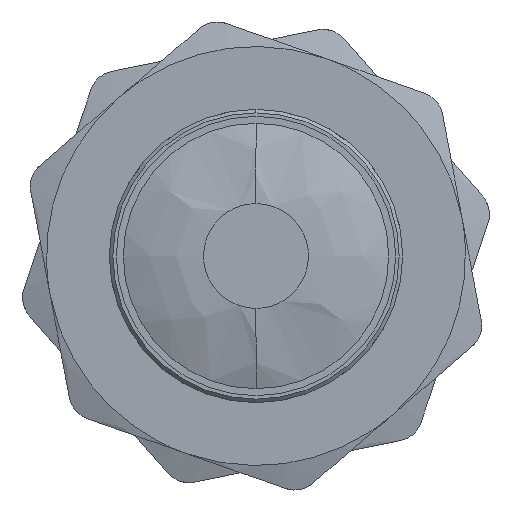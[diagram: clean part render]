
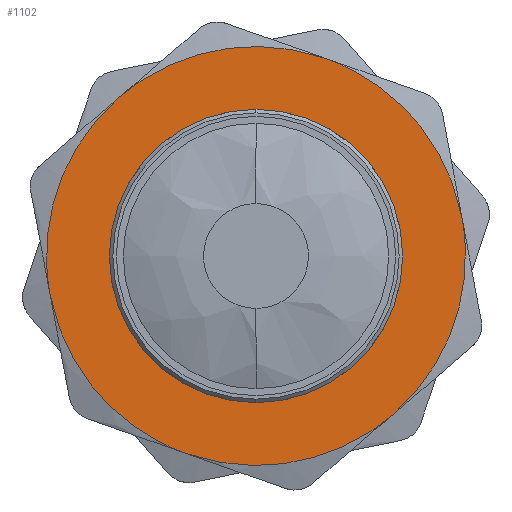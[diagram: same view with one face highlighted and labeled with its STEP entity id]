
A CAD part, left-side view. The second image highlights one B-rep face of the part: STEP entity #1102.
In plain terms, the highlighted planar face has unit normal (-1, 0, 0) as drawn and (1, 0, 0) by its records, which use the part's own axes.
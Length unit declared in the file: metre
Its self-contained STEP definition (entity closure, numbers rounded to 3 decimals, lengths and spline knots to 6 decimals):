
#63 = VERTEX_POINT ( 'NONE', #1628 ) ;
#105 = CARTESIAN_POINT ( 'NONE',  ( 0.005, 0., -0.03 ) ) ;
#111 = CARTESIAN_POINT ( 'NONE',  ( 0.005, 0.020489, 0.024513 ) ) ;
#120 = CARTESIAN_POINT ( 'NONE',  ( 0.005, 0., 0. ) ) ;
#154 = VERTEX_POINT ( 'NONE', #1417 ) ;
#286 = FACE_OUTER_BOUND ( 'NONE', #1823, .T. ) ;
#312 = DIRECTION ( 'NONE',  ( 0., 0., -1. ) ) ;
#315 = CARTESIAN_POINT ( 'NONE',  ( 0.005, -0.025981, 0.015 ) ) ;
#357 = AXIS2_PLACEMENT_3D ( 'NONE', #1763, #694, #1945 ) ;
#469 = CARTESIAN_POINT ( 'NONE',  ( 0.005, -0.02049, -0.02451 ) ) ;
#480 = CARTESIAN_POINT ( 'NONE',  ( 0.005, 0.010981, -0.03 ) ) ;
#486 = CARTESIAN_POINT ( 'NONE',  ( 0.005, 0., 0.03 ) ) ;
#499 = ORIENTED_EDGE ( 'NONE', *, *, #914, .T. ) ;
#576 = PLANE ( 'NONE',  #719 ) ;
#607 = AXIS2_PLACEMENT_3D ( 'NONE', #120, #1383, #312 ) ;
#625 = ORIENTED_EDGE ( 'NONE', *, *, #880, .T. ) ;
#636 = ORIENTED_EDGE ( 'NONE', *, *, #899, .F. ) ;
#649 =( BOUNDED_CURVE ( )  B_SPLINE_CURVE ( 3, ( #2261, #1177, #1897, #829 ),
 .UNSPECIFIED., .F., .F. ) 
 B_SPLINE_CURVE_WITH_KNOTS ( ( 4, 4 ),
 ( 0., 0.031289 ),
 .UNSPECIFIED. ) 
 CURVE ( )  GEOMETRIC_REPRESENTATION_ITEM ( )  RATIONAL_B_SPLINE_CURVE ( ( 0.998, 0.909, 0.909, 0.998 ) ) 
 REPRESENTATION_ITEM ( '' )  );
#677 = CARTESIAN_POINT ( 'NONE',  ( 0.005, -0.025981, -0.015 ) ) ;
#683 = ORIENTED_EDGE ( 'NONE', *, *, #724, .T. ) ;
#694 = DIRECTION ( 'NONE',  ( 1., 0., 0. ) ) ;
#719 = AXIS2_PLACEMENT_3D ( 'NONE', #759, #2008, #928 ) ;
#724 = EDGE_CURVE ( 'NONE', #2306, #63, #879, .T. ) ;
#758 = EDGE_CURVE ( 'NONE', #63, #1578, #1283, .T. ) ;
#759 = CARTESIAN_POINT ( 'NONE',  ( 0.005, -0.03036, 0.03036 ) ) ;
#829 = CARTESIAN_POINT ( 'NONE',  ( 0.005, 0.025981, 0.015 ) ) ;
#830 = CARTESIAN_POINT ( 'NONE',  ( 0.005, 0., -0.03 ) ) ;
#850 = EDGE_CURVE ( 'NONE', #1578, #1954, #649, .T. ) ;
#879 =( BOUNDED_CURVE ( )  B_SPLINE_CURVE ( 3, ( #1355, #469, #1898, #830 ),
 .UNSPECIFIED., .F., .F. ) 
 B_SPLINE_CURVE_WITH_KNOTS ( ( 4, 4 ),
 ( 0., 0.031289 ),
 .UNSPECIFIED. ) 
 CURVE ( )  GEOMETRIC_REPRESENTATION_ITEM ( )  RATIONAL_B_SPLINE_CURVE ( ( 0.998, 0.909, 0.909, 0.998 ) ) 
 REPRESENTATION_ITEM ( '' )  );
#880 = EDGE_CURVE ( 'NONE', #1954, #1590, #1460, .T. ) ;
#899 = EDGE_CURVE ( 'NONE', #1766, #2129, #913, .T. ) ;
#910 = ORIENTED_EDGE ( 'NONE', *, *, #850, .T. ) ;
#913 = CIRCLE ( 'NONE', #607, 0.021 ) ;
#914 = EDGE_CURVE ( 'NONE', #1590, #154, #2307, .T. ) ;
#920 = ORIENTED_EDGE ( 'NONE', *, *, #1042, .F. ) ;
#928 = DIRECTION ( 'NONE',  ( 0., 0., -1. ) ) ;
#945 = EDGE_CURVE ( 'NONE', #154, #2306, #1224, .T. ) ;
#1006 = CARTESIAN_POINT ( 'NONE',  ( 0.005, 0.025981, -0.015 ) ) ;
#1010 = CARTESIAN_POINT ( 'NONE',  ( 0.005, -0.025981, -0.015 ) ) ;
#1042 = EDGE_CURVE ( 'NONE', #2129, #1766, #2260, .T. ) ;
#1055 = CARTESIAN_POINT ( 'NONE',  ( 0.005, 0.025981, 0.015 ) ) ;
#1102 = ADVANCED_FACE ( 'NONE', ( #2143, #286 ), #576, .T. ) ;
#1177 = CARTESIAN_POINT ( 'NONE',  ( 0.005, 0.031471, -0.00549 ) ) ;
#1208 = CARTESIAN_POINT ( 'NONE',  ( 0.005, -0.025981, 0.015 ) ) ;
#1224 =( BOUNDED_CURVE ( )  B_SPLINE_CURVE ( 3, ( #315, #1385, #1740, #677 ),
 .UNSPECIFIED., .F., .F. ) 
 B_SPLINE_CURVE_WITH_KNOTS ( ( 4, 4 ),
 ( 0., 0.031289 ),
 .UNSPECIFIED. ) 
 CURVE ( )  GEOMETRIC_REPRESENTATION_ITEM ( )  RATIONAL_B_SPLINE_CURVE ( ( 0.998, 0.909, 0.909, 0.998 ) ) 
 REPRESENTATION_ITEM ( '' )  );
#1283 =( BOUNDED_CURVE ( )  B_SPLINE_CURVE ( 3, ( #105, #480, #2096, #1006 ),
 .UNSPECIFIED., .F., .T. ) 
 B_SPLINE_CURVE_WITH_KNOTS ( ( 4, 4 ),
 ( 0., 0.031289 ),
 .UNSPECIFIED. ) 
 CURVE ( )  GEOMETRIC_REPRESENTATION_ITEM ( )  RATIONAL_B_SPLINE_CURVE ( ( 0.998, 0.909, 0.909, 0.998 ) ) 
 REPRESENTATION_ITEM ( '' )  );
#1309 = CARTESIAN_POINT ( 'NONE',  ( 0.005, 0., 0.03 ) ) ;
#1355 = CARTESIAN_POINT ( 'NONE',  ( 0.005, -0.025981, -0.015 ) ) ;
#1373 = CARTESIAN_POINT ( 'NONE',  ( 0.005, 0.025981, 0.015 ) ) ;
#1383 = DIRECTION ( 'NONE',  ( 1., 0., 0. ) ) ;
#1385 = CARTESIAN_POINT ( 'NONE',  ( 0.005, -0.031471, 0.00549 ) ) ;
#1405 = ORIENTED_EDGE ( 'NONE', *, *, #758, .T. ) ;
#1417 = CARTESIAN_POINT ( 'NONE',  ( 0.005, -0.025981, 0.015 ) ) ;
#1445 = CARTESIAN_POINT ( 'NONE',  ( 0.005, 0., -0.021 ) ) ;
#1460 =( BOUNDED_CURVE ( )  B_SPLINE_CURVE ( 3, ( #1373, #111, #1560, #486 ),
 .UNSPECIFIED., .F., .F. ) 
 B_SPLINE_CURVE_WITH_KNOTS ( ( 4, 4 ),
 ( 0., 0.031289 ),
 .UNSPECIFIED. ) 
 CURVE ( )  GEOMETRIC_REPRESENTATION_ITEM ( )  RATIONAL_B_SPLINE_CURVE ( ( 0.998, 0.91, 0.91, 1. ) ) 
 REPRESENTATION_ITEM ( '' )  );
#1540 = ORIENTED_EDGE ( 'NONE', *, *, #945, .T. ) ;
#1560 = CARTESIAN_POINT ( 'NONE',  ( 0.005, 0.010977, 0.03 ) ) ;
#1565 = CARTESIAN_POINT ( 'NONE',  ( 0.005, 0., 0.021 ) ) ;
#1578 = VERTEX_POINT ( 'NONE', #2040 ) ;
#1590 = VERTEX_POINT ( 'NONE', #1309 ) ;
#1628 = CARTESIAN_POINT ( 'NONE',  ( 0.005, 0., -0.03 ) ) ;
#1740 = CARTESIAN_POINT ( 'NONE',  ( 0.005, -0.031471, -0.00549 ) ) ;
#1763 = CARTESIAN_POINT ( 'NONE',  ( 0.005, 0., 0. ) ) ;
#1766 = VERTEX_POINT ( 'NONE', #1565 ) ;
#1823 = EDGE_LOOP ( 'NONE', ( #499, #1540, #683, #1405, #910, #625 ) ) ;
#1897 = CARTESIAN_POINT ( 'NONE',  ( 0.005, 0.031471, 0.00549 ) ) ;
#1898 = CARTESIAN_POINT ( 'NONE',  ( 0.005, -0.010981, -0.03 ) ) ;
#1945 = DIRECTION ( 'NONE',  ( 0., 0., -1. ) ) ;
#1954 = VERTEX_POINT ( 'NONE', #1055 ) ;
#2008 = DIRECTION ( 'NONE',  ( 1., 0., 0. ) ) ;
#2040 = CARTESIAN_POINT ( 'NONE',  ( 0.005, 0.025981, -0.015 ) ) ;
#2096 = CARTESIAN_POINT ( 'NONE',  ( 0.005, 0.02049, -0.02451 ) ) ;
#2104 = CARTESIAN_POINT ( 'NONE',  ( 0.005, -0.010981, 0.03 ) ) ;
#2115 = CARTESIAN_POINT ( 'NONE',  ( 0.005, 0., 0.03 ) ) ;
#2129 = VERTEX_POINT ( 'NONE', #1445 ) ;
#2143 = FACE_BOUND ( 'NONE', #2288, .T. ) ;
#2260 = CIRCLE ( 'NONE', #357, 0.021 ) ;
#2261 = CARTESIAN_POINT ( 'NONE',  ( 0.005, 0.025981, -0.015 ) ) ;
#2288 = EDGE_LOOP ( 'NONE', ( #920, #636 ) ) ;
#2289 = CARTESIAN_POINT ( 'NONE',  ( 0.005, -0.02049, 0.02451 ) ) ;
#2306 = VERTEX_POINT ( 'NONE', #1010 ) ;
#2307 =( BOUNDED_CURVE ( )  B_SPLINE_CURVE ( 3, ( #2115, #2104, #2289, #1208 ),
 .UNSPECIFIED., .F., .F. ) 
 B_SPLINE_CURVE_WITH_KNOTS ( ( 4, 4 ),
 ( 0., 0.031289 ),
 .UNSPECIFIED. ) 
 CURVE ( )  GEOMETRIC_REPRESENTATION_ITEM ( )  RATIONAL_B_SPLINE_CURVE ( ( 0.998, 0.909, 0.909, 0.998 ) ) 
 REPRESENTATION_ITEM ( '' )  );
